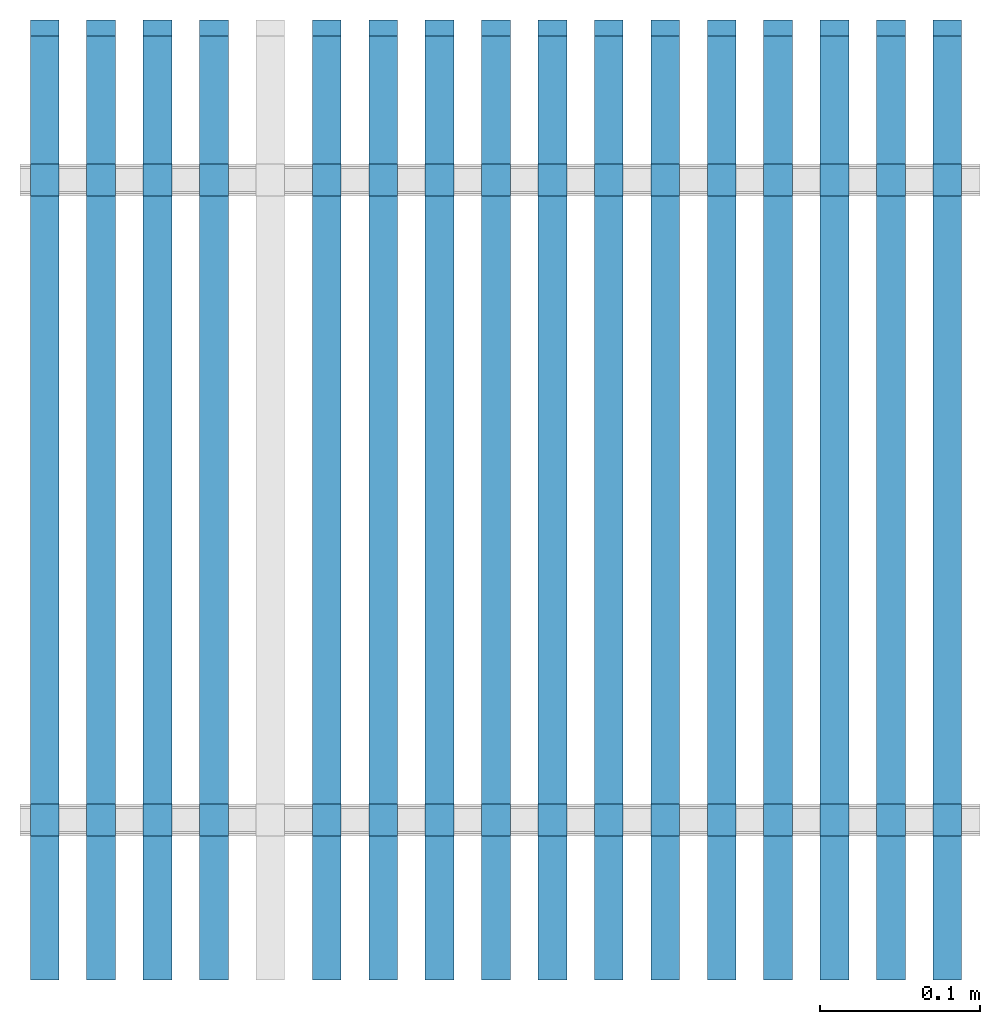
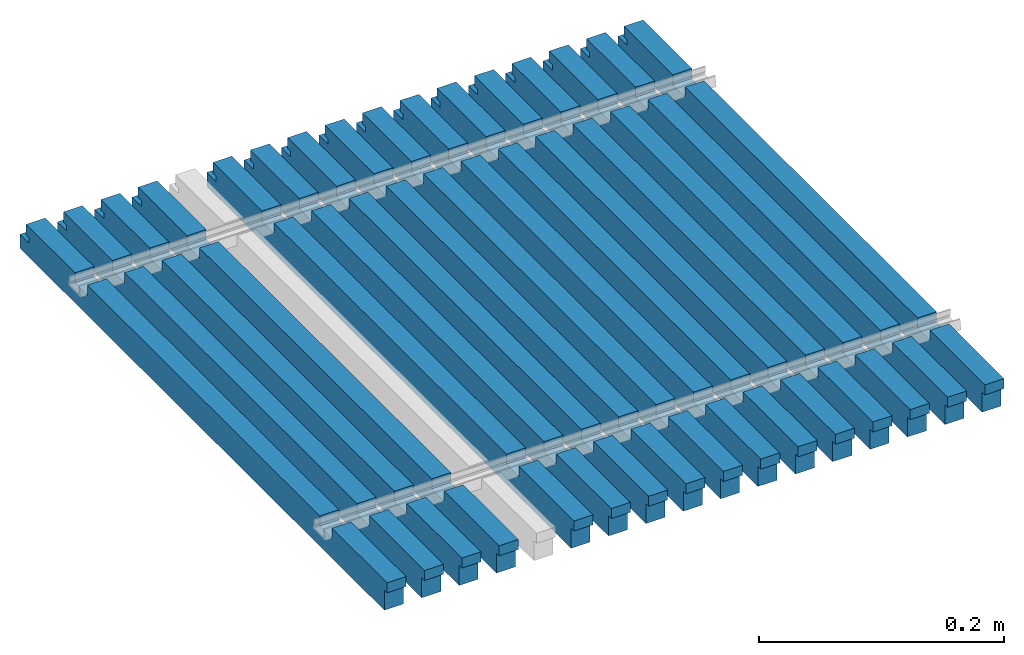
# One storey, part 2 of 3: 16 walls.
"""IFC2X3 building model written with IfcOpenShell, lengths in millimetres."""

from ifc_helpers import new_model, entity, si_unit, converted_unit, money_unit, direction, frame, origin_with_axes, place, context, subcontext, project, spatial, polyline, outline, extrude, boolean, faceted_brep, material, layer, layer_set, layer_usage, type_object, element, save


model = new_model("IFC2X3")

# Units and contexts
model_context = context("Model", 3, precision=1e-05, world=origin_with_axes(), true_north=direction((0.0, 1.0)))
body_context = subcontext(model_context, "Body", "Model", "MODEL_VIEW")
ifc_project = project(units=[si_unit("LENGTHUNIT", "METRE", prefix="MILLI"), si_unit("AREAUNIT", "SQUARE_METRE"), si_unit("VOLUMEUNIT", "CUBIC_METRE"), converted_unit("PLANEANGLEUNIT", "DEGREE", entity("IfcPlaneAngleMeasure", 0.0174532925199), si_unit("PLANEANGLEUNIT", "RADIAN"), dimensions=[0, 0, 0, 0, 0, 0, 0]), si_unit("SOLIDANGLEUNIT", "STERADIAN"), money_unit("AUD"), si_unit("TIMEUNIT", "SECOND"), si_unit("MASSUNIT", "GRAM"), si_unit("THERMODYNAMICTEMPERATUREUNIT", "DEGREE_CELSIUS"), si_unit("LUMINOUSINTENSITYUNIT", "LUMEN")], contexts=[model_context])

# Site, building, storey
site_placement = place(None, origin_with_axes())
site = spatial("IfcSite", under=ifc_project, at=site_placement, Name="Site", CompositionType="ELEMENT")
building_placement = place(site_placement, origin_with_axes())
building = spatial("IfcBuilding", under=site, at=building_placement, Name="Building", CompositionType="ELEMENT")
storey_placement = place(building_placement, origin_with_axes())
storey = spatial("IfcBuildingStorey", under=building, at=storey_placement, Name="GROUND", CompositionType="ELEMENT", Elevation=0.0)

# Walls
ifc_material = material(Name="Timber")
ifc_layer = layer(ifc_material, 18.0, ventilated="UNKNOWN")
ifc_layer_set = layer_set([ifc_layer], Name="Timber 18")
ifc_layer_usage_1 = layer_usage(ifc_layer_set, "AXIS2", "POSITIVE", 0.0)
wall_type = type_object("IfcWallType", Name="Timber 18", PredefinedType="NOTDEFINED")
wall_1_placement = place(storey_placement, frame((450.045, 0.0, -30.0), z_axis=(0.0, 0.0, 1.0), x_axis=(0.0, 1.0, 0.0)))
element("IfcWallStandardCase", 1, at=wall_1_placement, inside=storey, type_object=wall_type, material=ifc_layer_usage_1, Name="WALL-01", context=body_context, shape_type="CSG", body=[
    boolean("DIFFERENCE", boolean("DIFFERENCE", boolean("DIFFERENCE", boolean("DIFFERENCE", extrude(outline(polyline([(0.0, 0.0), (600.0, 0.0), (600.0, 18.0), (0.0, 18.0), (0.0, 0.0)])), origin_with_axes(), (0.0, 0.0, 1.0), 30.0), faceted_brep([(4.5, 0.0, 20.0), (0.0, 0.0, 20.0), (0.0, 0.0, 0.0), (4.5, 0.0, 0.0), (4.5, 18.0, 20.0), (0.0, 18.0, 20.0), (0.0, 18.0, 0.0), (4.5, 18.0, 0.0)], [[[0, 1, 2, 3]], [[1, 0, 4, 5]], [[1, 5, 6, 2]], [[7, 3, 2, 6]], [[0, 3, 7, 4]], [[4, 7, 6, 5]]])), faceted_brep([(90.0, 0.0, 20.0), (110.0, 0.0, 20.0), (110.0, 0.0, 30.0), (90.0, 0.0, 30.0), (90.0, 18.0, 20.0), (110.0, 18.0, 20.0), (110.0, 18.0, 30.0), (90.0, 18.0, 30.0)], [[[0, 1, 2, 3]], [[1, 0, 4, 5]], [[6, 2, 1, 5]], [[7, 3, 2, 6]], [[0, 3, 7, 4]], [[4, 7, 6, 5]]])), faceted_brep([(490.0, 0.0, 20.0), (510.0, 0.0, 20.0), (510.0, 0.0, 30.0), (490.0, 0.0, 30.0), (490.0, 18.0, 20.0), (510.0, 18.0, 20.0), (510.0, 18.0, 30.0), (490.0, 18.0, 30.0)], [[[0, 1, 2, 3]], [[1, 0, 4, 5]], [[6, 2, 1, 5]], [[7, 3, 2, 6]], [[0, 3, 7, 4]], [[4, 7, 6, 5]]])), faceted_brep([(585.0, 0.0, 19.5), (585.0, 0.0, 14.0), (600.0, 0.0, 14.0), (600.0, 0.0, 30.0), (590.0, 0.0, 30.0), (590.0, 0.0, 19.5), (585.0, 18.0, 19.5), (585.0, 18.0, 14.0), (600.0, 18.0, 14.0), (600.0, 18.0, 30.0), (590.0, 18.0, 30.0), (590.0, 18.0, 19.5)], [[[0, 1, 2, 3, 4, 5]], [[1, 0, 6, 7]], [[8, 2, 1, 7]], [[2, 8, 9, 3]], [[10, 4, 3, 9]], [[5, 4, 10, 11]], [[0, 5, 11, 6]], [[11, 10, 9, 8, 7, 6]]])),
])
ifc_layer_usage_2 = layer_usage(ifc_layer_set, "AXIS2", "POSITIVE", 0.0)
wall_2_placement = place(storey_placement, frame((273.73875, 0.0, -30.0), z_axis=(0.0, 0.0, 1.0), x_axis=(0.0, 1.0, 0.0)))
element("IfcWallStandardCase", 2, at=wall_2_placement, inside=storey, type_object=wall_type, material=ifc_layer_usage_2, Name="WALL-01", context=body_context, shape_type="CSG", body=[
    boolean("DIFFERENCE", boolean("DIFFERENCE", boolean("DIFFERENCE", boolean("DIFFERENCE", extrude(outline(polyline([(0.0, 0.0), (600.0, 0.0), (600.0, 18.0), (0.0, 18.0), (0.0, 0.0)])), origin_with_axes(), (0.0, 0.0, 1.0), 30.0), faceted_brep([(4.5, 0.0, 20.0), (0.0, 0.0, 20.0), (0.0, 0.0, 0.0), (4.5, 0.0, 0.0), (4.5, 18.0, 20.0), (0.0, 18.0, 20.0), (0.0, 18.0, 0.0), (4.5, 18.0, 0.0)], [[[0, 1, 2, 3]], [[1, 0, 4, 5]], [[1, 5, 6, 2]], [[7, 3, 2, 6]], [[0, 3, 7, 4]], [[4, 7, 6, 5]]])), faceted_brep([(90.0, 0.0, 20.0), (110.0, 0.0, 20.0), (110.0, 0.0, 30.0), (90.0, 0.0, 30.0), (90.0, 18.0, 20.0), (110.0, 18.0, 20.0), (110.0, 18.0, 30.0), (90.0, 18.0, 30.0)], [[[0, 1, 2, 3]], [[1, 0, 4, 5]], [[6, 2, 1, 5]], [[7, 3, 2, 6]], [[0, 3, 7, 4]], [[4, 7, 6, 5]]])), faceted_brep([(490.0, 0.0, 20.0), (510.0, 0.0, 20.0), (510.0, 0.0, 30.0), (490.0, 0.0, 30.0), (490.0, 18.0, 20.0), (510.0, 18.0, 20.0), (510.0, 18.0, 30.0), (490.0, 18.0, 30.0)], [[[0, 1, 2, 3]], [[1, 0, 4, 5]], [[6, 2, 1, 5]], [[7, 3, 2, 6]], [[0, 3, 7, 4]], [[4, 7, 6, 5]]])), faceted_brep([(585.0, 0.0, 19.5), (585.0, 0.0, 14.0), (600.0, 0.0, 14.0), (600.0, 0.0, 30.0), (590.0, 0.0, 30.0), (590.0, 0.0, 19.5), (585.0, 18.0, 19.5), (585.0, 18.0, 14.0), (600.0, 18.0, 14.0), (600.0, 18.0, 30.0), (590.0, 18.0, 30.0), (590.0, 18.0, 19.5)], [[[0, 1, 2, 3, 4, 5]], [[1, 0, 6, 7]], [[8, 2, 1, 7]], [[2, 8, 9, 3]], [[10, 4, 3, 9]], [[5, 4, 10, 11]], [[0, 5, 11, 6]], [[11, 10, 9, 8, 7, 6]]])),
])
ifc_layer_usage_3 = layer_usage(ifc_layer_set, "AXIS2", "POSITIVE", 0.0)
wall_3_placement = place(storey_placement, frame((485.30625, 0.0, -30.0), z_axis=(0.0, 0.0, 1.0), x_axis=(0.0, 1.0, 0.0)))
element("IfcWallStandardCase", 3, at=wall_3_placement, inside=storey, type_object=wall_type, material=ifc_layer_usage_3, Name="WALL-01", context=body_context, shape_type="CSG", body=[
    boolean("DIFFERENCE", boolean("DIFFERENCE", boolean("DIFFERENCE", boolean("DIFFERENCE", extrude(outline(polyline([(0.0, 0.0), (600.0, 0.0), (600.0, 18.0), (0.0, 18.0), (0.0, 0.0)])), origin_with_axes(), (0.0, 0.0, 1.0), 30.0), faceted_brep([(4.5, 0.0, 20.0), (0.0, 0.0, 20.0), (0.0, 0.0, 0.0), (4.5, 0.0, 0.0), (4.5, 18.0, 20.0), (0.0, 18.0, 20.0), (0.0, 18.0, 0.0), (4.5, 18.0, 0.0)], [[[0, 1, 2, 3]], [[1, 0, 4, 5]], [[1, 5, 6, 2]], [[7, 3, 2, 6]], [[0, 3, 7, 4]], [[4, 7, 6, 5]]])), faceted_brep([(90.0, 0.0, 20.0), (110.0, 0.0, 20.0), (110.0, 0.0, 30.0), (90.0, 0.0, 30.0), (90.0, 18.0, 20.0), (110.0, 18.0, 20.0), (110.0, 18.0, 30.0), (90.0, 18.0, 30.0)], [[[0, 1, 2, 3]], [[1, 0, 4, 5]], [[6, 2, 1, 5]], [[7, 3, 2, 6]], [[0, 3, 7, 4]], [[4, 7, 6, 5]]])), faceted_brep([(490.0, 0.0, 20.0), (510.0, 0.0, 20.0), (510.0, 0.0, 30.0), (490.0, 0.0, 30.0), (490.0, 18.0, 20.0), (510.0, 18.0, 20.0), (510.0, 18.0, 30.0), (490.0, 18.0, 30.0)], [[[0, 1, 2, 3]], [[1, 0, 4, 5]], [[6, 2, 1, 5]], [[7, 3, 2, 6]], [[0, 3, 7, 4]], [[4, 7, 6, 5]]])), faceted_brep([(585.0, 0.0, 19.5), (585.0, 0.0, 14.0), (600.0, 0.0, 14.0), (600.0, 0.0, 30.0), (590.0, 0.0, 30.0), (590.0, 0.0, 19.5), (585.0, 18.0, 19.5), (585.0, 18.0, 14.0), (600.0, 18.0, 14.0), (600.0, 18.0, 30.0), (590.0, 18.0, 30.0), (590.0, 18.0, 19.5)], [[[0, 1, 2, 3, 4, 5]], [[1, 0, 6, 7]], [[8, 2, 1, 7]], [[2, 8, 9, 3]], [[10, 4, 3, 9]], [[5, 4, 10, 11]], [[0, 5, 11, 6]], [[11, 10, 9, 8, 7, 6]]])),
])
ifc_layer_usage_4 = layer_usage(ifc_layer_set, "AXIS2", "POSITIVE", 0.0)
wall_4_placement = place(storey_placement, frame((591.09, 0.0, -30.0), z_axis=(0.0, 0.0, 1.0), x_axis=(0.0, 1.0, 0.0)))
element("IfcWallStandardCase", 4, at=wall_4_placement, inside=storey, type_object=wall_type, material=ifc_layer_usage_4, Name="WALL-01", context=body_context, shape_type="CSG", body=[
    boolean("DIFFERENCE", boolean("DIFFERENCE", boolean("DIFFERENCE", boolean("DIFFERENCE", extrude(outline(polyline([(0.0, 0.0), (600.0, 0.0), (600.0, 18.0), (0.0, 18.0), (0.0, 0.0)])), origin_with_axes(), (0.0, 0.0, 1.0), 30.0), faceted_brep([(4.5, 0.0, 20.0), (0.0, 0.0, 20.0), (0.0, 0.0, 0.0), (4.5, 0.0, 0.0), (4.5, 18.0, 20.0), (0.0, 18.0, 20.0), (0.0, 18.0, 0.0), (4.5, 18.0, 0.0)], [[[0, 1, 2, 3]], [[1, 0, 4, 5]], [[1, 5, 6, 2]], [[7, 3, 2, 6]], [[0, 3, 7, 4]], [[4, 7, 6, 5]]])), faceted_brep([(90.0, 0.0, 20.0), (110.0, 0.0, 20.0), (110.0, 0.0, 30.0), (90.0, 0.0, 30.0), (90.0, 18.0, 20.0), (110.0, 18.0, 20.0), (110.0, 18.0, 30.0), (90.0, 18.0, 30.0)], [[[0, 1, 2, 3]], [[1, 0, 4, 5]], [[6, 2, 1, 5]], [[7, 3, 2, 6]], [[0, 3, 7, 4]], [[4, 7, 6, 5]]])), faceted_brep([(490.0, 0.0, 20.0), (510.0, 0.0, 20.0), (510.0, 0.0, 30.0), (490.0, 0.0, 30.0), (490.0, 18.0, 20.0), (510.0, 18.0, 20.0), (510.0, 18.0, 30.0), (490.0, 18.0, 30.0)], [[[0, 1, 2, 3]], [[1, 0, 4, 5]], [[6, 2, 1, 5]], [[7, 3, 2, 6]], [[0, 3, 7, 4]], [[4, 7, 6, 5]]])), faceted_brep([(585.0, 0.0, 19.5), (585.0, 0.0, 14.0), (600.0, 0.0, 14.0), (600.0, 0.0, 30.0), (590.0, 0.0, 30.0), (590.0, 0.0, 19.5), (585.0, 18.0, 19.5), (585.0, 18.0, 14.0), (600.0, 18.0, 14.0), (600.0, 18.0, 30.0), (590.0, 18.0, 30.0), (590.0, 18.0, 19.5)], [[[0, 1, 2, 3, 4, 5]], [[1, 0, 6, 7]], [[8, 2, 1, 7]], [[2, 8, 9, 3]], [[10, 4, 3, 9]], [[5, 4, 10, 11]], [[0, 5, 11, 6]], [[11, 10, 9, 8, 7, 6]]])),
])
ifc_layer_usage_5 = layer_usage(ifc_layer_set, "AXIS2", "POSITIVE", 0.0)
wall_5_placement = place(storey_placement, frame((238.4775, 0.0, -30.0), z_axis=(0.0, 0.0, 1.0), x_axis=(0.0, 1.0, 0.0)))
element("IfcWallStandardCase", 5, at=wall_5_placement, inside=storey, type_object=wall_type, material=ifc_layer_usage_5, Name="WALL-01", context=body_context, shape_type="CSG", body=[
    boolean("DIFFERENCE", boolean("DIFFERENCE", boolean("DIFFERENCE", boolean("DIFFERENCE", extrude(outline(polyline([(0.0, 0.0), (600.0, 0.0), (600.0, 18.0), (0.0, 18.0), (0.0, 0.0)])), origin_with_axes(), (0.0, 0.0, 1.0), 30.0), faceted_brep([(4.5, 0.0, 20.0), (0.0, 0.0, 20.0), (0.0, 0.0, 0.0), (4.5, 0.0, 0.0), (4.5, 18.0, 20.0), (0.0, 18.0, 20.0), (0.0, 18.0, 0.0), (4.5, 18.0, 0.0)], [[[0, 1, 2, 3]], [[1, 0, 4, 5]], [[1, 5, 6, 2]], [[7, 3, 2, 6]], [[0, 3, 7, 4]], [[4, 7, 6, 5]]])), faceted_brep([(90.0, 0.0, 20.0), (110.0, 0.0, 20.0), (110.0, 0.0, 30.0), (90.0, 0.0, 30.0), (90.0, 18.0, 20.0), (110.0, 18.0, 20.0), (110.0, 18.0, 30.0), (90.0, 18.0, 30.0)], [[[0, 1, 2, 3]], [[1, 0, 4, 5]], [[6, 2, 1, 5]], [[7, 3, 2, 6]], [[0, 3, 7, 4]], [[4, 7, 6, 5]]])), faceted_brep([(490.0, 0.0, 20.0), (510.0, 0.0, 20.0), (510.0, 0.0, 30.0), (490.0, 0.0, 30.0), (490.0, 18.0, 20.0), (510.0, 18.0, 20.0), (510.0, 18.0, 30.0), (490.0, 18.0, 30.0)], [[[0, 1, 2, 3]], [[1, 0, 4, 5]], [[6, 2, 1, 5]], [[7, 3, 2, 6]], [[0, 3, 7, 4]], [[4, 7, 6, 5]]])), faceted_brep([(585.0, 0.0, 19.5), (585.0, 0.0, 14.0), (600.0, 0.0, 14.0), (600.0, 0.0, 30.0), (590.0, 0.0, 30.0), (590.0, 0.0, 19.5), (585.0, 18.0, 19.5), (585.0, 18.0, 14.0), (600.0, 18.0, 14.0), (600.0, 18.0, 30.0), (590.0, 18.0, 30.0), (590.0, 18.0, 19.5)], [[[0, 1, 2, 3, 4, 5]], [[1, 0, 6, 7]], [[8, 2, 1, 7]], [[2, 8, 9, 3]], [[10, 4, 3, 9]], [[5, 4, 10, 11]], [[0, 5, 11, 6]], [[11, 10, 9, 8, 7, 6]]])),
])
ifc_layer_usage_6 = layer_usage(ifc_layer_set, "AXIS2", "POSITIVE", 0.0)
wall_6_placement = place(storey_placement, frame((379.5225, 0.0, -30.0), z_axis=(0.0, 0.0, 1.0), x_axis=(0.0, 1.0, 0.0)))
element("IfcWallStandardCase", 6, at=wall_6_placement, inside=storey, type_object=wall_type, material=ifc_layer_usage_6, Name="WALL-01", context=body_context, shape_type="CSG", body=[
    boolean("DIFFERENCE", boolean("DIFFERENCE", boolean("DIFFERENCE", boolean("DIFFERENCE", extrude(outline(polyline([(0.0, 0.0), (600.0, 0.0), (600.0, 18.0), (0.0, 18.0), (0.0, 0.0)])), origin_with_axes(), (0.0, 0.0, 1.0), 30.0), faceted_brep([(4.5, 0.0, 20.0), (0.0, 0.0, 20.0), (0.0, 0.0, 0.0), (4.5, 0.0, 0.0), (4.5, 18.0, 20.0), (0.0, 18.0, 20.0), (0.0, 18.0, 0.0), (4.5, 18.0, 0.0)], [[[0, 1, 2, 3]], [[1, 0, 4, 5]], [[1, 5, 6, 2]], [[7, 3, 2, 6]], [[0, 3, 7, 4]], [[4, 7, 6, 5]]])), faceted_brep([(90.0, 0.0, 20.0), (110.0, 0.0, 20.0), (110.0, 0.0, 30.0), (90.0, 0.0, 30.0), (90.0, 18.0, 20.0), (110.0, 18.0, 20.0), (110.0, 18.0, 30.0), (90.0, 18.0, 30.0)], [[[0, 1, 2, 3]], [[1, 0, 4, 5]], [[6, 2, 1, 5]], [[7, 3, 2, 6]], [[0, 3, 7, 4]], [[4, 7, 6, 5]]])), faceted_brep([(490.0, 0.0, 20.0), (510.0, 0.0, 20.0), (510.0, 0.0, 30.0), (490.0, 0.0, 30.0), (490.0, 18.0, 20.0), (510.0, 18.0, 20.0), (510.0, 18.0, 30.0), (490.0, 18.0, 30.0)], [[[0, 1, 2, 3]], [[1, 0, 4, 5]], [[6, 2, 1, 5]], [[7, 3, 2, 6]], [[0, 3, 7, 4]], [[4, 7, 6, 5]]])), faceted_brep([(585.0, 0.0, 19.5), (585.0, 0.0, 14.0), (600.0, 0.0, 14.0), (600.0, 0.0, 30.0), (590.0, 0.0, 30.0), (590.0, 0.0, 19.5), (585.0, 18.0, 19.5), (585.0, 18.0, 14.0), (600.0, 18.0, 14.0), (600.0, 18.0, 30.0), (590.0, 18.0, 30.0), (590.0, 18.0, 19.5)], [[[0, 1, 2, 3, 4, 5]], [[1, 0, 6, 7]], [[8, 2, 1, 7]], [[2, 8, 9, 3]], [[10, 4, 3, 9]], [[5, 4, 10, 11]], [[0, 5, 11, 6]], [[11, 10, 9, 8, 7, 6]]])),
])
ifc_layer_usage_7 = layer_usage(ifc_layer_set, "AXIS2", "POSITIVE", 0.0)
wall_7_placement = place(storey_placement, frame((520.5675, 0.0, -30.0), z_axis=(0.0, 0.0, 1.0), x_axis=(0.0, 1.0, 0.0)))
element("IfcWallStandardCase", 7, at=wall_7_placement, inside=storey, type_object=wall_type, material=ifc_layer_usage_7, Name="WALL-01", context=body_context, shape_type="CSG", body=[
    boolean("DIFFERENCE", boolean("DIFFERENCE", boolean("DIFFERENCE", boolean("DIFFERENCE", extrude(outline(polyline([(0.0, 0.0), (600.0, 0.0), (600.0, 18.0), (0.0, 18.0), (0.0, 0.0)])), origin_with_axes(), (0.0, 0.0, 1.0), 30.0), faceted_brep([(4.5, 0.0, 20.0), (0.0, 0.0, 20.0), (0.0, 0.0, 0.0), (4.5, 0.0, 0.0), (4.5, 18.0, 20.0), (0.0, 18.0, 20.0), (0.0, 18.0, 0.0), (4.5, 18.0, 0.0)], [[[0, 1, 2, 3]], [[1, 0, 4, 5]], [[1, 5, 6, 2]], [[7, 3, 2, 6]], [[0, 3, 7, 4]], [[4, 7, 6, 5]]])), faceted_brep([(90.0, 0.0, 20.0), (110.0, 0.0, 20.0), (110.0, 0.0, 30.0), (90.0, 0.0, 30.0), (90.0, 18.0, 20.0), (110.0, 18.0, 20.0), (110.0, 18.0, 30.0), (90.0, 18.0, 30.0)], [[[0, 1, 2, 3]], [[1, 0, 4, 5]], [[6, 2, 1, 5]], [[7, 3, 2, 6]], [[0, 3, 7, 4]], [[4, 7, 6, 5]]])), faceted_brep([(490.0, 0.0, 20.0), (510.0, 0.0, 20.0), (510.0, 0.0, 30.0), (490.0, 0.0, 30.0), (490.0, 18.0, 20.0), (510.0, 18.0, 20.0), (510.0, 18.0, 30.0), (490.0, 18.0, 30.0)], [[[0, 1, 2, 3]], [[1, 0, 4, 5]], [[6, 2, 1, 5]], [[7, 3, 2, 6]], [[0, 3, 7, 4]], [[4, 7, 6, 5]]])), faceted_brep([(585.0, 0.0, 19.5), (585.0, 0.0, 14.0), (600.0, 0.0, 14.0), (600.0, 0.0, 30.0), (590.0, 0.0, 30.0), (590.0, 0.0, 19.5), (585.0, 18.0, 19.5), (585.0, 18.0, 14.0), (600.0, 18.0, 14.0), (600.0, 18.0, 30.0), (590.0, 18.0, 30.0), (590.0, 18.0, 19.5)], [[[0, 1, 2, 3, 4, 5]], [[1, 0, 6, 7]], [[8, 2, 1, 7]], [[2, 8, 9, 3]], [[10, 4, 3, 9]], [[5, 4, 10, 11]], [[0, 5, 11, 6]], [[11, 10, 9, 8, 7, 6]]])),
])
ifc_layer_usage_8 = layer_usage(ifc_layer_set, "AXIS2", "POSITIVE", 0.0)
wall_8_placement = place(storey_placement, frame((414.78375, 0.0, -30.0), z_axis=(0.0, 0.0, 1.0), x_axis=(0.0, 1.0, 0.0)))
element("IfcWallStandardCase", 8, at=wall_8_placement, inside=storey, type_object=wall_type, material=ifc_layer_usage_8, Name="WALL-01", context=body_context, shape_type="CSG", body=[
    boolean("DIFFERENCE", boolean("DIFFERENCE", boolean("DIFFERENCE", boolean("DIFFERENCE", extrude(outline(polyline([(0.0, 0.0), (600.0, 0.0), (600.0, 18.0), (0.0, 18.0), (0.0, 0.0)])), origin_with_axes(), (0.0, 0.0, 1.0), 30.0), faceted_brep([(4.5, 0.0, 20.0), (0.0, 0.0, 20.0), (0.0, 0.0, 0.0), (4.5, 0.0, 0.0), (4.5, 18.0, 20.0), (0.0, 18.0, 20.0), (0.0, 18.0, 0.0), (4.5, 18.0, 0.0)], [[[0, 1, 2, 3]], [[1, 0, 4, 5]], [[1, 5, 6, 2]], [[7, 3, 2, 6]], [[0, 3, 7, 4]], [[4, 7, 6, 5]]])), faceted_brep([(90.0, 0.0, 20.0), (110.0, 0.0, 20.0), (110.0, 0.0, 30.0), (90.0, 0.0, 30.0), (90.0, 18.0, 20.0), (110.0, 18.0, 20.0), (110.0, 18.0, 30.0), (90.0, 18.0, 30.0)], [[[0, 1, 2, 3]], [[1, 0, 4, 5]], [[6, 2, 1, 5]], [[7, 3, 2, 6]], [[0, 3, 7, 4]], [[4, 7, 6, 5]]])), faceted_brep([(490.0, 0.0, 20.0), (510.0, 0.0, 20.0), (510.0, 0.0, 30.0), (490.0, 0.0, 30.0), (490.0, 18.0, 20.0), (510.0, 18.0, 20.0), (510.0, 18.0, 30.0), (490.0, 18.0, 30.0)], [[[0, 1, 2, 3]], [[1, 0, 4, 5]], [[6, 2, 1, 5]], [[7, 3, 2, 6]], [[0, 3, 7, 4]], [[4, 7, 6, 5]]])), faceted_brep([(585.0, 0.0, 19.5), (585.0, 0.0, 14.0), (600.0, 0.0, 14.0), (600.0, 0.0, 30.0), (590.0, 0.0, 30.0), (590.0, 0.0, 19.5), (585.0, 18.0, 19.5), (585.0, 18.0, 14.0), (600.0, 18.0, 14.0), (600.0, 18.0, 30.0), (590.0, 18.0, 30.0), (590.0, 18.0, 19.5)], [[[0, 1, 2, 3, 4, 5]], [[1, 0, 6, 7]], [[8, 2, 1, 7]], [[2, 8, 9, 3]], [[10, 4, 3, 9]], [[5, 4, 10, 11]], [[0, 5, 11, 6]], [[11, 10, 9, 8, 7, 6]]])),
])
ifc_layer_usage_9 = layer_usage(ifc_layer_set, "AXIS2", "POSITIVE", 0.0)
wall_9_placement = place(storey_placement, frame((555.82875, 0.0, -30.0), z_axis=(0.0, 0.0, 1.0), x_axis=(0.0, 1.0, 0.0)))
element("IfcWallStandardCase", 9, at=wall_9_placement, inside=storey, type_object=wall_type, material=ifc_layer_usage_9, Name="WALL-01", context=body_context, shape_type="CSG", body=[
    boolean("DIFFERENCE", boolean("DIFFERENCE", boolean("DIFFERENCE", boolean("DIFFERENCE", extrude(outline(polyline([(0.0, 0.0), (600.0, 0.0), (600.0, 18.0), (0.0, 18.0), (0.0, 0.0)])), origin_with_axes(), (0.0, 0.0, 1.0), 30.0), faceted_brep([(4.5, 0.0, 20.0), (0.0, 0.0, 20.0), (0.0, 0.0, 0.0), (4.5, 0.0, 0.0), (4.5, 18.0, 20.0), (0.0, 18.0, 20.0), (0.0, 18.0, 0.0), (4.5, 18.0, 0.0)], [[[0, 1, 2, 3]], [[1, 0, 4, 5]], [[1, 5, 6, 2]], [[7, 3, 2, 6]], [[0, 3, 7, 4]], [[4, 7, 6, 5]]])), faceted_brep([(90.0, 0.0, 20.0), (110.0, 0.0, 20.0), (110.0, 0.0, 30.0), (90.0, 0.0, 30.0), (90.0, 18.0, 20.0), (110.0, 18.0, 20.0), (110.0, 18.0, 30.0), (90.0, 18.0, 30.0)], [[[0, 1, 2, 3]], [[1, 0, 4, 5]], [[6, 2, 1, 5]], [[7, 3, 2, 6]], [[0, 3, 7, 4]], [[4, 7, 6, 5]]])), faceted_brep([(490.0, 0.0, 20.0), (510.0, 0.0, 20.0), (510.0, 0.0, 30.0), (490.0, 0.0, 30.0), (490.0, 18.0, 20.0), (510.0, 18.0, 20.0), (510.0, 18.0, 30.0), (490.0, 18.0, 30.0)], [[[0, 1, 2, 3]], [[1, 0, 4, 5]], [[6, 2, 1, 5]], [[7, 3, 2, 6]], [[0, 3, 7, 4]], [[4, 7, 6, 5]]])), faceted_brep([(585.0, 0.0, 19.5), (585.0, 0.0, 14.0), (600.0, 0.0, 14.0), (600.0, 0.0, 30.0), (590.0, 0.0, 30.0), (590.0, 0.0, 19.5), (585.0, 18.0, 19.5), (585.0, 18.0, 14.0), (600.0, 18.0, 14.0), (600.0, 18.0, 30.0), (590.0, 18.0, 30.0), (590.0, 18.0, 19.5)], [[[0, 1, 2, 3, 4, 5]], [[1, 0, 6, 7]], [[8, 2, 1, 7]], [[2, 8, 9, 3]], [[10, 4, 3, 9]], [[5, 4, 10, 11]], [[0, 5, 11, 6]], [[11, 10, 9, 8, 7, 6]]])),
])
ifc_layer_usage_10 = layer_usage(ifc_layer_set, "AXIS2", "POSITIVE", 0.0)
wall_10_placement = place(storey_placement, frame((309.0, 0.0, -30.0), z_axis=(0.0, 0.0, 1.0), x_axis=(0.0, 1.0, 0.0)))
element("IfcWallStandardCase", 10, at=wall_10_placement, inside=storey, type_object=wall_type, material=ifc_layer_usage_10, Name="WALL-01", context=body_context, shape_type="CSG", body=[
    boolean("DIFFERENCE", boolean("DIFFERENCE", boolean("DIFFERENCE", boolean("DIFFERENCE", extrude(outline(polyline([(0.0, 0.0), (600.0, 0.0), (600.0, 18.0), (0.0, 18.0), (0.0, 0.0)])), origin_with_axes(), (0.0, 0.0, 1.0), 30.0), faceted_brep([(4.5, 0.0, 20.0), (0.0, 0.0, 20.0), (0.0, 0.0, 0.0), (4.5, 0.0, 0.0), (4.5, 18.0, 20.0), (0.0, 18.0, 20.0), (0.0, 18.0, 0.0), (4.5, 18.0, 0.0)], [[[0, 1, 2, 3]], [[1, 0, 4, 5]], [[1, 5, 6, 2]], [[7, 3, 2, 6]], [[0, 3, 7, 4]], [[4, 7, 6, 5]]])), faceted_brep([(90.0, 0.0, 20.0), (110.0, 0.0, 20.0), (110.0, 0.0, 30.0), (90.0, 0.0, 30.0), (90.0, 18.0, 20.0), (110.0, 18.0, 20.0), (110.0, 18.0, 30.0), (90.0, 18.0, 30.0)], [[[0, 1, 2, 3]], [[1, 0, 4, 5]], [[6, 2, 1, 5]], [[7, 3, 2, 6]], [[0, 3, 7, 4]], [[4, 7, 6, 5]]])), faceted_brep([(490.0, 0.0, 20.0), (510.0, 0.0, 20.0), (510.0, 0.0, 30.0), (490.0, 0.0, 30.0), (490.0, 18.0, 20.0), (510.0, 18.0, 20.0), (510.0, 18.0, 30.0), (490.0, 18.0, 30.0)], [[[0, 1, 2, 3]], [[1, 0, 4, 5]], [[6, 2, 1, 5]], [[7, 3, 2, 6]], [[0, 3, 7, 4]], [[4, 7, 6, 5]]])), faceted_brep([(585.0, 0.0, 19.5), (585.0, 0.0, 14.0), (600.0, 0.0, 14.0), (600.0, 0.0, 30.0), (590.0, 0.0, 30.0), (590.0, 0.0, 19.5), (585.0, 18.0, 19.5), (585.0, 18.0, 14.0), (600.0, 18.0, 14.0), (600.0, 18.0, 30.0), (590.0, 18.0, 30.0), (590.0, 18.0, 19.5)], [[[0, 1, 2, 3, 4, 5]], [[1, 0, 6, 7]], [[8, 2, 1, 7]], [[2, 8, 9, 3]], [[10, 4, 3, 9]], [[5, 4, 10, 11]], [[0, 5, 11, 6]], [[11, 10, 9, 8, 7, 6]]])),
])
ifc_layer_usage_11 = layer_usage(ifc_layer_set, "AXIS2", "POSITIVE", 0.0)
wall_11_placement = place(storey_placement, frame((344.26125, 0.0, -30.0), z_axis=(0.0, 0.0, 1.0), x_axis=(0.0, 1.0, 0.0)))
element("IfcWallStandardCase", 11, at=wall_11_placement, inside=storey, type_object=wall_type, material=ifc_layer_usage_11, Name="WALL-01", context=body_context, shape_type="CSG", body=[
    boolean("DIFFERENCE", boolean("DIFFERENCE", boolean("DIFFERENCE", boolean("DIFFERENCE", extrude(outline(polyline([(0.0, 0.0), (600.0, 0.0), (600.0, 18.0), (0.0, 18.0), (0.0, 0.0)])), origin_with_axes(), (0.0, 0.0, 1.0), 30.0), faceted_brep([(4.5, 0.0, 20.0), (0.0, 0.0, 20.0), (0.0, 0.0, 0.0), (4.5, 0.0, 0.0), (4.5, 18.0, 20.0), (0.0, 18.0, 20.0), (0.0, 18.0, 0.0), (4.5, 18.0, 0.0)], [[[0, 1, 2, 3]], [[1, 0, 4, 5]], [[1, 5, 6, 2]], [[7, 3, 2, 6]], [[0, 3, 7, 4]], [[4, 7, 6, 5]]])), faceted_brep([(90.0, 0.0, 20.0), (110.0, 0.0, 20.0), (110.0, 0.0, 30.0), (90.0, 0.0, 30.0), (90.0, 18.0, 20.0), (110.0, 18.0, 20.0), (110.0, 18.0, 30.0), (90.0, 18.0, 30.0)], [[[0, 1, 2, 3]], [[1, 0, 4, 5]], [[6, 2, 1, 5]], [[7, 3, 2, 6]], [[0, 3, 7, 4]], [[4, 7, 6, 5]]])), faceted_brep([(490.0, 0.0, 20.0), (510.0, 0.0, 20.0), (510.0, 0.0, 30.0), (490.0, 0.0, 30.0), (490.0, 18.0, 20.0), (510.0, 18.0, 20.0), (510.0, 18.0, 30.0), (490.0, 18.0, 30.0)], [[[0, 1, 2, 3]], [[1, 0, 4, 5]], [[6, 2, 1, 5]], [[7, 3, 2, 6]], [[0, 3, 7, 4]], [[4, 7, 6, 5]]])), faceted_brep([(585.0, 0.0, 19.5), (585.0, 0.0, 14.0), (600.0, 0.0, 14.0), (600.0, 0.0, 30.0), (590.0, 0.0, 30.0), (590.0, 0.0, 19.5), (585.0, 18.0, 19.5), (585.0, 18.0, 14.0), (600.0, 18.0, 14.0), (600.0, 18.0, 30.0), (590.0, 18.0, 30.0), (590.0, 18.0, 19.5)], [[[0, 1, 2, 3, 4, 5]], [[1, 0, 6, 7]], [[8, 2, 1, 7]], [[2, 8, 9, 3]], [[10, 4, 3, 9]], [[5, 4, 10, 11]], [[0, 5, 11, 6]], [[11, 10, 9, 8, 7, 6]]])),
])
ifc_layer_usage_12 = layer_usage(ifc_layer_set, "AXIS2", "POSITIVE", 0.0)
wall_12_placement = place(storey_placement, frame((26.91, 0.0, -30.0), z_axis=(0.0, 0.0, 1.0), x_axis=(0.0, 1.0, 0.0)))
element("IfcWallStandardCase", 12, at=wall_12_placement, inside=storey, type_object=wall_type, material=ifc_layer_usage_12, Name="WALL-01", context=body_context, shape_type="CSG", body=[
    boolean("DIFFERENCE", boolean("DIFFERENCE", boolean("DIFFERENCE", boolean("DIFFERENCE", extrude(outline(polyline([(0.0, 0.0), (600.0, 0.0), (600.0, 18.0), (0.0, 18.0), (0.0, 0.0)])), origin_with_axes(), (0.0, 0.0, 1.0), 30.0), faceted_brep([(4.5, 0.0, 20.0), (0.0, 0.0, 20.0), (0.0, 0.0, 0.0), (4.5, 0.0, 0.0), (4.5, 18.0, 20.0), (0.0, 18.0, 20.0), (0.0, 18.0, 0.0), (4.5, 18.0, 0.0)], [[[0, 1, 2, 3]], [[1, 0, 4, 5]], [[1, 5, 6, 2]], [[7, 3, 2, 6]], [[0, 3, 7, 4]], [[4, 7, 6, 5]]])), faceted_brep([(90.0, 0.0, 20.0), (110.0, 0.0, 20.0), (110.0, 0.0, 30.0), (90.0, 0.0, 30.0), (90.0, 18.0, 20.0), (110.0, 18.0, 20.0), (110.0, 18.0, 30.0), (90.0, 18.0, 30.0)], [[[0, 1, 2, 3]], [[1, 0, 4, 5]], [[6, 2, 1, 5]], [[7, 3, 2, 6]], [[0, 3, 7, 4]], [[4, 7, 6, 5]]])), faceted_brep([(490.0, 0.0, 20.0), (510.0, 0.0, 20.0), (510.0, 0.0, 30.0), (490.0, 0.0, 30.0), (490.0, 18.0, 20.0), (510.0, 18.0, 20.0), (510.0, 18.0, 30.0), (490.0, 18.0, 30.0)], [[[0, 1, 2, 3]], [[1, 0, 4, 5]], [[6, 2, 1, 5]], [[7, 3, 2, 6]], [[0, 3, 7, 4]], [[4, 7, 6, 5]]])), faceted_brep([(585.0, 0.0, 19.5), (585.0, 0.0, 14.0), (600.0, 0.0, 14.0), (600.0, 0.0, 30.0), (590.0, 0.0, 30.0), (590.0, 0.0, 19.5), (585.0, 18.0, 19.5), (585.0, 18.0, 14.0), (600.0, 18.0, 14.0), (600.0, 18.0, 30.0), (590.0, 18.0, 30.0), (590.0, 18.0, 19.5)], [[[0, 1, 2, 3, 4, 5]], [[1, 0, 6, 7]], [[8, 2, 1, 7]], [[2, 8, 9, 3]], [[10, 4, 3, 9]], [[5, 4, 10, 11]], [[0, 5, 11, 6]], [[11, 10, 9, 8, 7, 6]]])),
])
ifc_layer_usage_13 = layer_usage(ifc_layer_set, "AXIS2", "POSITIVE", 0.0)
wall_13_placement = place(storey_placement, frame((62.17125, 0.0, -30.0), z_axis=(0.0, 0.0, 1.0), x_axis=(0.0, 1.0, 0.0)))
element("IfcWallStandardCase", 13, at=wall_13_placement, inside=storey, type_object=wall_type, material=ifc_layer_usage_13, Name="WALL-01", context=body_context, shape_type="CSG", body=[
    boolean("DIFFERENCE", boolean("DIFFERENCE", boolean("DIFFERENCE", boolean("DIFFERENCE", extrude(outline(polyline([(0.0, 0.0), (600.0, 0.0), (600.0, 18.0), (0.0, 18.0), (0.0, 0.0)])), origin_with_axes(), (0.0, 0.0, 1.0), 30.0), faceted_brep([(4.5, 0.0, 20.0), (0.0, 0.0, 20.0), (0.0, 0.0, 0.0), (4.5, 0.0, 0.0), (4.5, 18.0, 20.0), (0.0, 18.0, 20.0), (0.0, 18.0, 0.0), (4.5, 18.0, 0.0)], [[[0, 1, 2, 3]], [[1, 0, 4, 5]], [[1, 5, 6, 2]], [[7, 3, 2, 6]], [[0, 3, 7, 4]], [[4, 7, 6, 5]]])), faceted_brep([(90.0, 0.0, 20.0), (110.0, 0.0, 20.0), (110.0, 0.0, 30.0), (90.0, 0.0, 30.0), (90.0, 18.0, 20.0), (110.0, 18.0, 20.0), (110.0, 18.0, 30.0), (90.0, 18.0, 30.0)], [[[0, 1, 2, 3]], [[1, 0, 4, 5]], [[6, 2, 1, 5]], [[7, 3, 2, 6]], [[0, 3, 7, 4]], [[4, 7, 6, 5]]])), faceted_brep([(490.0, 0.0, 20.0), (510.0, 0.0, 20.0), (510.0, 0.0, 30.0), (490.0, 0.0, 30.0), (490.0, 18.0, 20.0), (510.0, 18.0, 20.0), (510.0, 18.0, 30.0), (490.0, 18.0, 30.0)], [[[0, 1, 2, 3]], [[1, 0, 4, 5]], [[6, 2, 1, 5]], [[7, 3, 2, 6]], [[0, 3, 7, 4]], [[4, 7, 6, 5]]])), faceted_brep([(585.0, 0.0, 19.5), (585.0, 0.0, 14.0), (600.0, 0.0, 14.0), (600.0, 0.0, 30.0), (590.0, 0.0, 30.0), (590.0, 0.0, 19.5), (585.0, 18.0, 19.5), (585.0, 18.0, 14.0), (600.0, 18.0, 14.0), (600.0, 18.0, 30.0), (590.0, 18.0, 30.0), (590.0, 18.0, 19.5)], [[[0, 1, 2, 3, 4, 5]], [[1, 0, 6, 7]], [[8, 2, 1, 7]], [[2, 8, 9, 3]], [[10, 4, 3, 9]], [[5, 4, 10, 11]], [[0, 5, 11, 6]], [[11, 10, 9, 8, 7, 6]]])),
])
ifc_layer_usage_14 = layer_usage(ifc_layer_set, "AXIS2", "POSITIVE", 0.0)
wall_14_placement = place(storey_placement, frame((203.21625, 0.0, -30.0), z_axis=(0.0, 0.0, 1.0), x_axis=(0.0, 1.0, 0.0)))
element("IfcWallStandardCase", 14, at=wall_14_placement, inside=storey, type_object=wall_type, material=ifc_layer_usage_14, Name="WALL-01", context=body_context, shape_type="CSG", body=[
    boolean("DIFFERENCE", boolean("DIFFERENCE", boolean("DIFFERENCE", boolean("DIFFERENCE", extrude(outline(polyline([(0.0, 0.0), (600.0, 0.0), (600.0, 18.0), (0.0, 18.0), (0.0, 0.0)])), origin_with_axes(), (0.0, 0.0, 1.0), 30.0), faceted_brep([(4.5, 0.0, 20.0), (0.0, 0.0, 20.0), (0.0, 0.0, 0.0), (4.5, 0.0, 0.0), (4.5, 18.0, 20.0), (0.0, 18.0, 20.0), (0.0, 18.0, 0.0), (4.5, 18.0, 0.0)], [[[0, 1, 2, 3]], [[1, 0, 4, 5]], [[1, 5, 6, 2]], [[7, 3, 2, 6]], [[0, 3, 7, 4]], [[4, 7, 6, 5]]])), faceted_brep([(90.0, 0.0, 20.0), (110.0, 0.0, 20.0), (110.0, 0.0, 30.0), (90.0, 0.0, 30.0), (90.0, 18.0, 20.0), (110.0, 18.0, 20.0), (110.0, 18.0, 30.0), (90.0, 18.0, 30.0)], [[[0, 1, 2, 3]], [[1, 0, 4, 5]], [[6, 2, 1, 5]], [[7, 3, 2, 6]], [[0, 3, 7, 4]], [[4, 7, 6, 5]]])), faceted_brep([(490.0, 0.0, 20.0), (510.0, 0.0, 20.0), (510.0, 0.0, 30.0), (490.0, 0.0, 30.0), (490.0, 18.0, 20.0), (510.0, 18.0, 20.0), (510.0, 18.0, 30.0), (490.0, 18.0, 30.0)], [[[0, 1, 2, 3]], [[1, 0, 4, 5]], [[6, 2, 1, 5]], [[7, 3, 2, 6]], [[0, 3, 7, 4]], [[4, 7, 6, 5]]])), faceted_brep([(585.0, 0.0, 19.5), (585.0, 0.0, 14.0), (600.0, 0.0, 14.0), (600.0, 0.0, 30.0), (590.0, 0.0, 30.0), (590.0, 0.0, 19.5), (585.0, 18.0, 19.5), (585.0, 18.0, 14.0), (600.0, 18.0, 14.0), (600.0, 18.0, 30.0), (590.0, 18.0, 30.0), (590.0, 18.0, 19.5)], [[[0, 1, 2, 3, 4, 5]], [[1, 0, 6, 7]], [[8, 2, 1, 7]], [[2, 8, 9, 3]], [[10, 4, 3, 9]], [[5, 4, 10, 11]], [[0, 5, 11, 6]], [[11, 10, 9, 8, 7, 6]]])),
])
ifc_layer_usage_15 = layer_usage(ifc_layer_set, "AXIS2", "POSITIVE", 0.0)
wall_15_placement = place(storey_placement, frame((132.69375, 0.0, -30.0), z_axis=(0.0, 0.0, 1.0), x_axis=(0.0, 1.0, 0.0)))
element("IfcWallStandardCase", 15, at=wall_15_placement, inside=storey, type_object=wall_type, material=ifc_layer_usage_15, Name="WALL-01", context=body_context, shape_type="CSG", body=[
    boolean("DIFFERENCE", boolean("DIFFERENCE", boolean("DIFFERENCE", boolean("DIFFERENCE", extrude(outline(polyline([(0.0, 0.0), (600.0, 0.0), (600.0, 18.0), (0.0, 18.0), (0.0, 0.0)])), origin_with_axes(), (0.0, 0.0, 1.0), 30.0), faceted_brep([(4.5, 0.0, 20.0), (0.0, 0.0, 20.0), (0.0, 0.0, 0.0), (4.5, 0.0, 0.0), (4.5, 18.0, 20.0), (0.0, 18.0, 20.0), (0.0, 18.0, 0.0), (4.5, 18.0, 0.0)], [[[0, 1, 2, 3]], [[1, 0, 4, 5]], [[1, 5, 6, 2]], [[7, 3, 2, 6]], [[0, 3, 7, 4]], [[4, 7, 6, 5]]])), faceted_brep([(90.0, 0.0, 20.0), (110.0, 0.0, 20.0), (110.0, 0.0, 30.0), (90.0, 0.0, 30.0), (90.0, 18.0, 20.0), (110.0, 18.0, 20.0), (110.0, 18.0, 30.0), (90.0, 18.0, 30.0)], [[[0, 1, 2, 3]], [[1, 0, 4, 5]], [[6, 2, 1, 5]], [[7, 3, 2, 6]], [[0, 3, 7, 4]], [[4, 7, 6, 5]]])), faceted_brep([(490.0, 0.0, 20.0), (510.0, 0.0, 20.0), (510.0, 0.0, 30.0), (490.0, 0.0, 30.0), (490.0, 18.0, 20.0), (510.0, 18.0, 20.0), (510.0, 18.0, 30.0), (490.0, 18.0, 30.0)], [[[0, 1, 2, 3]], [[1, 0, 4, 5]], [[6, 2, 1, 5]], [[7, 3, 2, 6]], [[0, 3, 7, 4]], [[4, 7, 6, 5]]])), faceted_brep([(585.0, 0.0, 19.5), (585.0, 0.0, 14.0), (600.0, 0.0, 14.0), (600.0, 0.0, 30.0), (590.0, 0.0, 30.0), (590.0, 0.0, 19.5), (585.0, 18.0, 19.5), (585.0, 18.0, 14.0), (600.0, 18.0, 14.0), (600.0, 18.0, 30.0), (590.0, 18.0, 30.0), (590.0, 18.0, 19.5)], [[[0, 1, 2, 3, 4, 5]], [[1, 0, 6, 7]], [[8, 2, 1, 7]], [[2, 8, 9, 3]], [[10, 4, 3, 9]], [[5, 4, 10, 11]], [[0, 5, 11, 6]], [[11, 10, 9, 8, 7, 6]]])),
])
ifc_layer_usage_16 = layer_usage(ifc_layer_set, "AXIS2", "POSITIVE", 0.0)
wall_16_placement = place(storey_placement, frame((97.4325, 0.0, -30.0), z_axis=(0.0, 0.0, 1.0), x_axis=(0.0, 1.0, 0.0)))
element("IfcWallStandardCase", 16, at=wall_16_placement, inside=storey, type_object=wall_type, material=ifc_layer_usage_16, Name="WALL-01", context=body_context, shape_type="CSG", body=[
    boolean("DIFFERENCE", boolean("DIFFERENCE", boolean("DIFFERENCE", boolean("DIFFERENCE", extrude(outline(polyline([(0.0, 0.0), (600.0, 0.0), (600.0, 18.0), (0.0, 18.0), (0.0, 0.0)])), origin_with_axes(), (0.0, 0.0, 1.0), 30.0), faceted_brep([(4.5, 0.0, 20.0), (0.0, 0.0, 20.0), (0.0, 0.0, 0.0), (4.5, 0.0, 0.0), (4.5, 18.0, 20.0), (0.0, 18.0, 20.0), (0.0, 18.0, 0.0), (4.5, 18.0, 0.0)], [[[0, 1, 2, 3]], [[1, 0, 4, 5]], [[1, 5, 6, 2]], [[7, 3, 2, 6]], [[0, 3, 7, 4]], [[4, 7, 6, 5]]])), faceted_brep([(90.0, 0.0, 20.0), (110.0, 0.0, 20.0), (110.0, 0.0, 30.0), (90.0, 0.0, 30.0), (90.0, 18.0, 20.0), (110.0, 18.0, 20.0), (110.0, 18.0, 30.0), (90.0, 18.0, 30.0)], [[[0, 1, 2, 3]], [[1, 0, 4, 5]], [[6, 2, 1, 5]], [[7, 3, 2, 6]], [[0, 3, 7, 4]], [[4, 7, 6, 5]]])), faceted_brep([(490.0, 0.0, 20.0), (510.0, 0.0, 20.0), (510.0, 0.0, 30.0), (490.0, 0.0, 30.0), (490.0, 18.0, 20.0), (510.0, 18.0, 20.0), (510.0, 18.0, 30.0), (490.0, 18.0, 30.0)], [[[0, 1, 2, 3]], [[1, 0, 4, 5]], [[6, 2, 1, 5]], [[7, 3, 2, 6]], [[0, 3, 7, 4]], [[4, 7, 6, 5]]])), faceted_brep([(585.0, 0.0, 19.5), (585.0, 0.0, 14.0), (600.0, 0.0, 14.0), (600.0, 0.0, 30.0), (590.0, 0.0, 30.0), (590.0, 0.0, 19.5), (585.0, 18.0, 19.5), (585.0, 18.0, 14.0), (600.0, 18.0, 14.0), (600.0, 18.0, 30.0), (590.0, 18.0, 30.0), (590.0, 18.0, 19.5)], [[[0, 1, 2, 3, 4, 5]], [[1, 0, 6, 7]], [[8, 2, 1, 7]], [[2, 8, 9, 3]], [[10, 4, 3, 9]], [[5, 4, 10, 11]], [[0, 5, 11, 6]], [[11, 10, 9, 8, 7, 6]]])),
])

save(model, "model.ifc")
